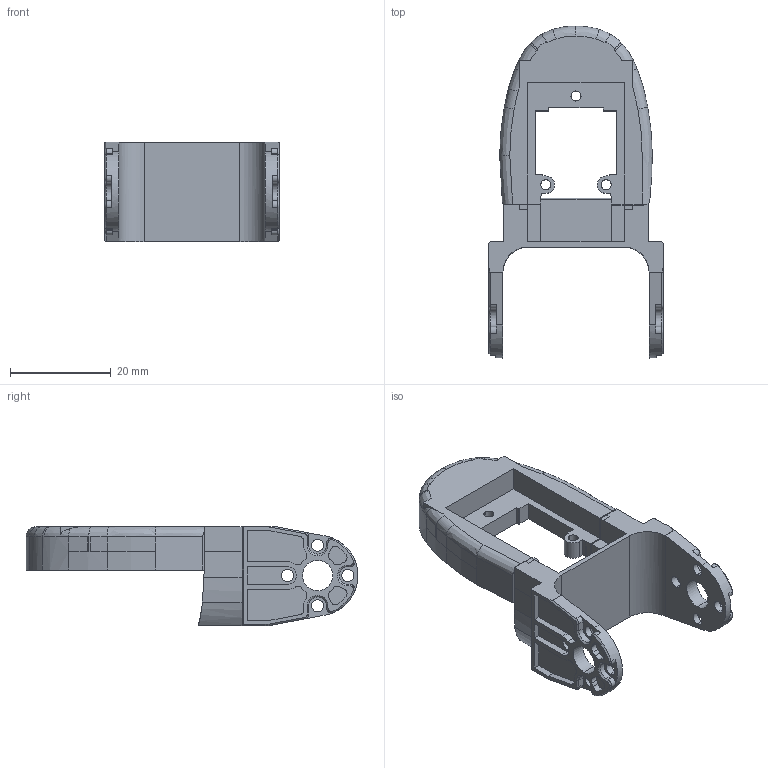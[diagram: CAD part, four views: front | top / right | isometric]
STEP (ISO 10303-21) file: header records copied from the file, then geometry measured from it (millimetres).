
FILE_DESCRIPTION (( 'STEP AP214' ), '1' );
FILE_NAME ('ｴｫｸﾐﾆｬｽﾓｶ貊', '2026-09-17T09:56:15', ( '' ), ( '' ), 'SwSTEP 2.0', 'SolidWorks 2024', '' );
FILE_SCHEMA (( 'AUTOMOTIVE_DESIGN' ));
Length unit declared in the file: millimetre
Products named in the file (1): 传感器连接舵机6
Bounding box: 34.6 x 65.84 x 19.82 mm (x, y, z)
Volume: 8083.6 mm3; surface area: 7220 mm2
Topology: 2 solids, 2 shells, 366 faces, 989 edges, 635 vertices
Faces by surface type: plane 170, cylinder 114, bspline 50, cone 30, sphere 2
Entity records: 12733 total; most frequent: CARTESIAN_POINT 3652, ORIENTED_EDGE 1974, DIRECTION 1774, EDGE_CURVE 987, VERTEX_POINT 635, AXIS2_PLACEMENT_3D 601, LINE 572, VECTOR 572
